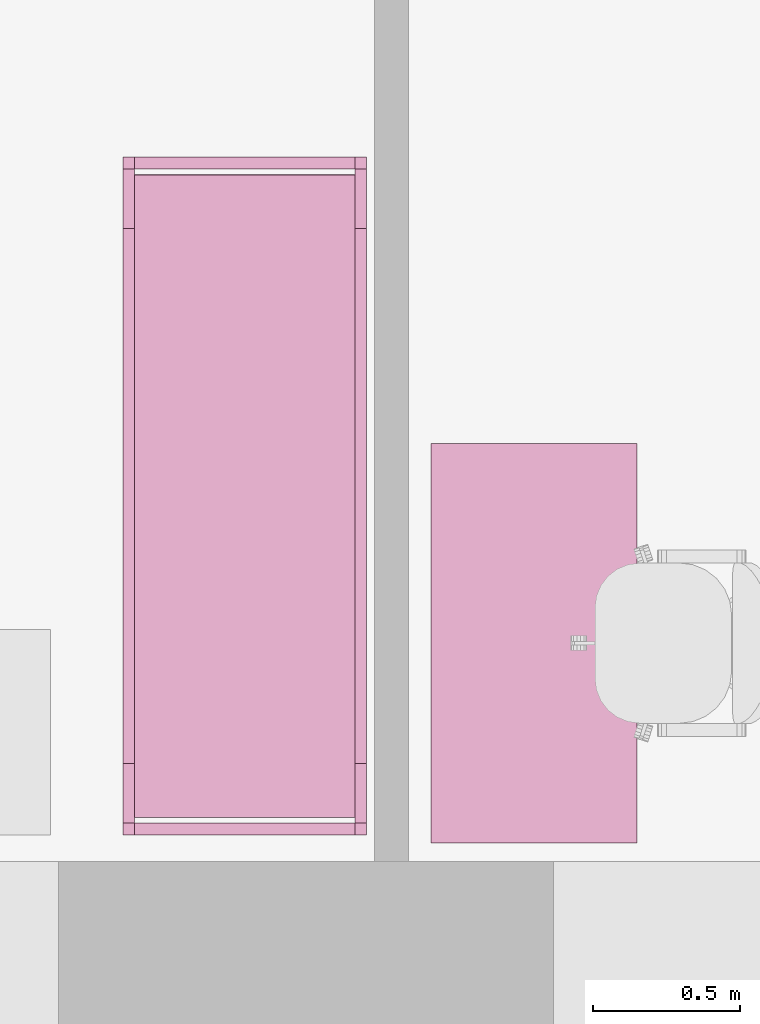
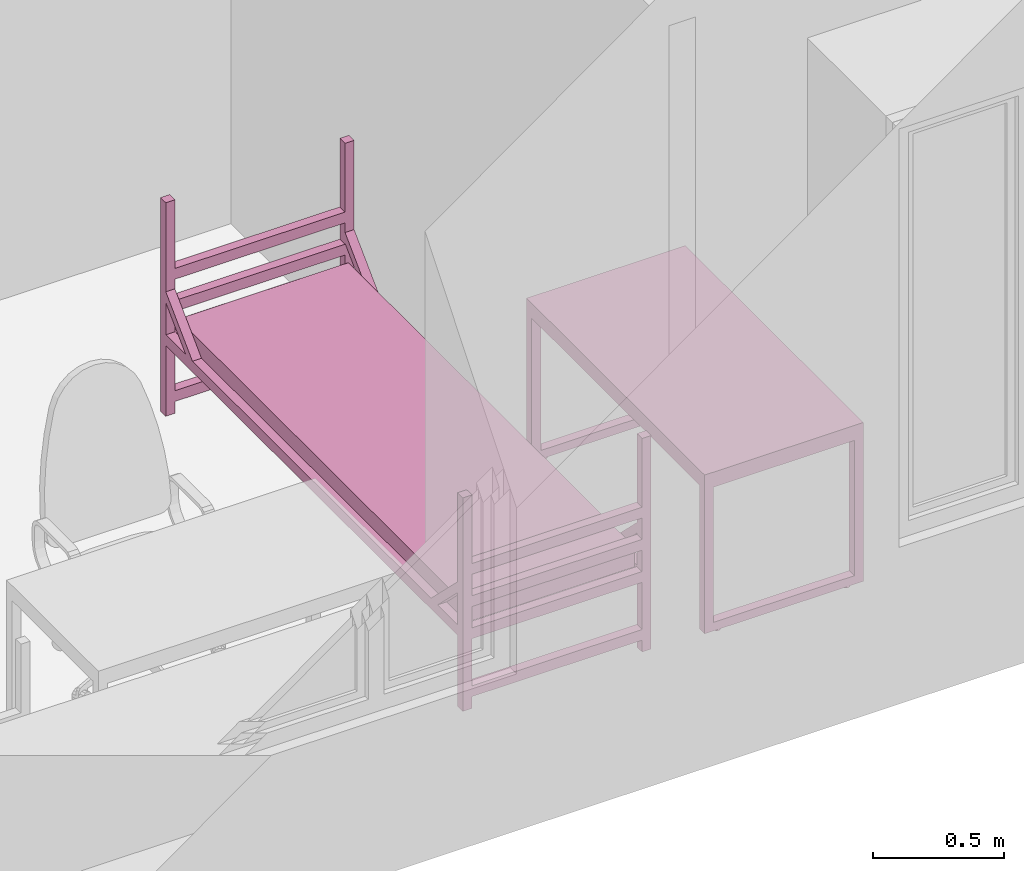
# One storey, part 36 of 48: 2 furnishings.
"""IFC2X3 building model written with IfcOpenShell, lengths in millimetres."""

from ifc_helpers import new_model, entity, si_unit, converted_unit, derived_unit, direction, frame, frame_2d, origin, place, context, subcontext, project, spatial, polyline, circle_curve, parameter, trimmed, segment, composite_curve, rectangle, outline, extrude, faceted_brep, source, transform, mapped, material, material_list, type_object, type_shapes, element, save


model = new_model("IFC2X3")

# Units and contexts
model_context = context("Model", 3, precision=0.01, world=origin(), true_north=direction((6.12303176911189e-17, 1.0)))
body_context = subcontext(model_context, "Body", "Model", "MODEL_VIEW")
ifc_project = project(units=[si_unit("LENGTHUNIT", "METRE", prefix="MILLI"), si_unit("AREAUNIT", "SQUARE_METRE"), si_unit("VOLUMEUNIT", "CUBIC_METRE"), converted_unit("PLANEANGLEUNIT", "DEGREE", entity("IfcRatioMeasure", 0.0174532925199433), si_unit("PLANEANGLEUNIT", "RADIAN"), dimensions=[0, 0, 0, 0, 0, 0, 0]), si_unit("MASSUNIT", "GRAM", prefix="KILO"), derived_unit("MASSDENSITYUNIT", [(si_unit("MASSUNIT", "GRAM", prefix="KILO"), 1), (si_unit("LENGTHUNIT", "METRE"), -3)]), si_unit("TIMEUNIT", "SECOND"), si_unit("FREQUENCYUNIT", "HERTZ"), si_unit("THERMODYNAMICTEMPERATUREUNIT", "DEGREE_CELSIUS"), derived_unit("THERMALTRANSMITTANCEUNIT", [(si_unit("MASSUNIT", "GRAM", prefix="KILO"), 1), (si_unit("THERMODYNAMICTEMPERATUREUNIT", "KELVIN"), -1), (si_unit("TIMEUNIT", "SECOND"), -3)]), derived_unit("VOLUMETRICFLOWRATEUNIT", [(si_unit("LENGTHUNIT", "METRE"), 3), (si_unit("TIMEUNIT", "SECOND"), -1)]), si_unit("ELECTRICCURRENTUNIT", "AMPERE"), si_unit("ELECTRICVOLTAGEUNIT", "VOLT"), si_unit("POWERUNIT", "WATT"), si_unit("FORCEUNIT", "NEWTON", prefix="KILO"), si_unit("ILLUMINANCEUNIT", "LUX"), si_unit("LUMINOUSFLUXUNIT", "LUMEN"), si_unit("LUMINOUSINTENSITYUNIT", "CANDELA"), derived_unit("USERDEFINED", [(si_unit("MASSUNIT", "GRAM", prefix="KILO"), -1), (si_unit("LENGTHUNIT", "METRE"), -2), (si_unit("TIMEUNIT", "SECOND"), 3), (si_unit("LUMINOUSFLUXUNIT", "LUMEN"), 1)]), derived_unit("LINEARVELOCITYUNIT", [(si_unit("LENGTHUNIT", "METRE"), 1), (si_unit("TIMEUNIT", "SECOND"), -1)]), si_unit("PRESSUREUNIT", "PASCAL"), derived_unit("USERDEFINED", [(si_unit("LENGTHUNIT", "METRE"), -2), (si_unit("MASSUNIT", "GRAM", prefix="KILO"), 1), (si_unit("TIMEUNIT", "SECOND"), -2)]), derived_unit("LINEARFORCEUNIT", [(si_unit("MASSUNIT", "GRAM", prefix="KILO"), 1), (si_unit("LENGTHUNIT", "METRE"), 1), (si_unit("TIMEUNIT", "SECOND"), -2), (si_unit("LENGTHUNIT", "METRE"), -1)]), derived_unit("PLANARFORCEUNIT", [(si_unit("MASSUNIT", "GRAM", prefix="KILO"), 1), (si_unit("LENGTHUNIT", "METRE"), 1), (si_unit("TIMEUNIT", "SECOND"), -2), (si_unit("LENGTHUNIT", "METRE"), -2)])], contexts=[model_context])

# Site, building, storey, space
site_placement = place(None, origin())
site = spatial("IfcSite", under=ifc_project, at=site_placement, Name="Default", CompositionType="ELEMENT")
building_placement = place(site_placement, origin())
building = spatial("IfcBuilding", under=site, at=building_placement, Name="SMA ARH", CompositionType="ELEMENT")
storey_placement = place(building_placement, frame((0.0, 0.0, 3300.0)))
storey = spatial("IfcBuildingStorey", under=building, at=storey_placement, Name="2 Korrus", CompositionType="ELEMENT", Elevation=3299.99999999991)
space_1_placement = place(storey_placement, origin())
space_1 = spatial("IfcSpace", under=storey, at=space_1_placement, Name="2-7", CompositionType="ELEMENT", InteriorOrExteriorSpace="INTERNAL")

# Furnishing
ifc_material_1 = material(Name="Madrats")
furniture_type_1 = type_object("IfcFurnitureType", Name="Kasarmu voodi ühekordne 2308x830:Kasarmu voodi ühekordne 2308x830", material=ifc_material_1)
shared_shape_1 = source(origin(), body_context, "Body", "SweptSolid", [
    extrude(rectangle(XDim=39.9999999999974, YDim=750.000000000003, at=frame_2d((-1.35003119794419e-13, -2.8421709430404e-14), x_axis=(1.0, 0.0))), frame((1.68638457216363, -1226.7969571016, 55.0), z_axis=(0.0, 0.0, 1.0), x_axis=(0.0, -1.0, 0.0)), (0.0, 0.0, 1.0), 49.9999999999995),
    extrude(rectangle(XDim=39.9999999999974, YDim=750.000000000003, at=frame_2d((-1.35003119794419e-13, -2.8421709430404e-14), x_axis=(1.0, 0.0))), frame((1.68638457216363, -1226.7969571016, 325.0), z_axis=(0.0, 0.0, 1.0), x_axis=(0.0, -1.0, 0.0)), (0.0, 0.0, 1.0), 49.9999999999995),
    extrude(rectangle(XDim=39.9999999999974, YDim=750.000000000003, at=frame_2d((-1.35003119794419e-13, -2.8421709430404e-14), x_axis=(1.0, 0.0))), frame((1.68638457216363, -1226.7969571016, 475.0), z_axis=(0.0, 0.0, 1.0), x_axis=(0.0, -1.0, 0.0)), (0.0, 0.0, 1.0), 49.9999999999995),
    extrude(rectangle(XDim=39.9999999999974, YDim=750.000000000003, at=frame_2d((-1.35003119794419e-13, -2.8421709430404e-14), x_axis=(1.0, 0.0))), frame((1.68638457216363, -1226.7969571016, 625.0), z_axis=(0.0, 0.0, 1.0), x_axis=(0.0, -1.0, 0.0)), (0.0, 0.0, 1.0), 50.0000000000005),
    extrude(rectangle(XDim=39.9999999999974, YDim=750.000000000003, at=frame_2d((1.35003119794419e-13, -2.8421709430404e-14), x_axis=(1.0, 0.0))), frame((1.68638457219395, 1041.2030428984, 55.0), z_axis=(0.0, 0.0, 1.0), x_axis=(0.0, -1.0, 0.0)), (0.0, 0.0, 1.0), 50.0000000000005),
    extrude(rectangle(XDim=39.9999999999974, YDim=750.000000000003, at=frame_2d((1.35003119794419e-13, -2.8421709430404e-14), x_axis=(1.0, 0.0))), frame((1.68638457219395, 1041.2030428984, 325.0), z_axis=(0.0, 0.0, 1.0), x_axis=(0.0, -1.0, 0.0)), (0.0, 0.0, 1.0), 50.0000000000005),
    extrude(rectangle(XDim=39.9999999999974, YDim=750.000000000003, at=frame_2d((1.35003119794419e-13, -2.8421709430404e-14), x_axis=(1.0, 0.0))), frame((1.68638457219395, 1041.2030428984, 475.0), z_axis=(0.0, 0.0, 1.0), x_axis=(0.0, -1.0, 0.0)), (0.0, 0.0, 1.0), 50.0000000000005),
    extrude(rectangle(XDim=39.9999999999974, YDim=750.000000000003, at=frame_2d((1.35003119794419e-13, -2.8421709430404e-14), x_axis=(1.0, 0.0))), frame((1.68638457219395, 1041.2030428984, 625.0), z_axis=(0.0, 0.0, 1.0), x_axis=(0.0, -1.0, 0.0)), (0.0, 0.0, 1.0), 49.9999999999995),
    extrude(outline(composite_curve([segment(trimmed(circle_curve(frame_2d((1085.0, -40.0), x_axis=(1.0, 0.0)), 10.0), [parameter(270.0)], [parameter(0.0)], True, "PARAMETER"), True, "CONTINUOUS"), segment(polyline([(1095.0, -40.0), (1095.0, 40.0)]), True, "CONTINUOUS"), segment(trimmed(circle_curve(frame_2d((1085.0, 40.0), x_axis=(1.0, 0.0)), 10.0), [parameter(0.0)], [parameter(90.0000000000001)], True, "PARAMETER"), True, "CONTINUOUS"), segment(polyline([(1085.0, 50.0), (-1085.0, 50.0)]), True, "CONTINUOUS"), segment(trimmed(circle_curve(frame_2d((-1085.0, 40.0), x_axis=(1.0, 0.0)), 10.0), [parameter(90.0000000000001)], [parameter(180.0)], True, "PARAMETER"), True, "CONTINUOUS"), segment(polyline([(-1095.0, 40.0), (-1095.0, -40.0)]), True, "CONTINUOUS"), segment(trimmed(circle_curve(frame_2d((-1085.0, -40.0), x_axis=(1.0, 0.0)), 10.0), [parameter(180.0)], [parameter(270.0)], True, "PARAMETER"), True, "CONTINUOUS"), segment(polyline([(-1085.0, -50.0), (1085.0, -50.0)]), True, "CONTINUOUS")], self_intersect=False)), frame((-373.313615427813, -92.7969571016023, 405.0), z_axis=(1.0, 0.0, 0.0), x_axis=(0.0, -1.0, 0.0)), (0.0, 0.0, 1.0), 750.000000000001),
    extrude(outline(polyline([(-1114.0, -100.0), (1114.0, -100.0), (1114.0, -50.0), (961.59199141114, -50.0), (1114.0, 100.0), (1114.0, 150.0), (910.789321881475, -50.0), (-910.789321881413, -50.0), (-1114.0, 150.0), (-1114.0, 100.0), (-961.591991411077, -50.0), (-1114.0, -50.0), (-1114.0, -100.0)])), frame((-413.313615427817, -92.7969571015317, 430.0), z_axis=(1.0, 0.0, 0.0), x_axis=(0.0, 1.0, 0.0)), (0.0, 0.0, 1.0), 39.9999999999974),
    extrude(outline(polyline([(-1114.0, -100.0), (1114.0, -100.0), (1114.0, -50.0), (961.591991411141, -50.0), (1114.0, 100.0), (1114.0, 150.0), (910.789321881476, -50.0), (-910.789321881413, -50.0), (-1114.0, 150.0), (-1114.0, 100.0), (-961.591991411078, -50.0), (-1114.0, -50.0), (-1114.0, -100.0)])), frame((376.686384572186, -92.796957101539, 430.0), z_axis=(1.0, 0.0, 0.0), x_axis=(0.0, 1.0, 0.0)), (0.0, 0.0, 1.0), 39.9999999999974),
    extrude(rectangle(XDim=39.9999999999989, YDim=39.9999999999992, at=frame_2d((-6.75015598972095e-14, 0.0), x_axis=(1.0, 0.0))), frame((396.686384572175, -1226.79695710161, 0.0), z_axis=(0.0, 0.0, 1.0), x_axis=(0.0, 1.0, 0.0)), (0.0, 0.0, 1.0), 995.0),
    extrude(rectangle(XDim=39.9999999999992, YDim=39.9999999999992, at=frame_2d((-1.35003119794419e-13, 0.0), x_axis=(1.0, 0.0))), frame((396.686384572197, 1041.20304289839, 0.0), z_axis=(0.0, 0.0, 1.0), x_axis=(0.0, 1.0, 0.0)), (0.0, 0.0, 1.0), 995.0),
    extrude(rectangle(XDim=40.0000000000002, YDim=39.9999999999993, at=frame_2d((-1.35003119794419e-13, 0.0), x_axis=(1.0, 0.0))), frame((-393.313615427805, 1041.2030428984, 0.0), z_axis=(0.0, 0.0, 1.0), x_axis=(0.0, 1.0, 0.0)), (0.0, 0.0, 1.0), 995.0),
    extrude(rectangle(XDim=39.9999999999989, YDim=39.9999999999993, at=frame_2d((-6.75015598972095e-14, 0.0), x_axis=(1.0, 0.0))), frame((-393.313615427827, -1226.7969571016, 0.0), z_axis=(0.0, 0.0, 1.0), x_axis=(0.0, 1.0, 0.0)), (0.0, 0.0, 1.0), 995.0),
])
type_shapes(furniture_type_1, [shared_shape_1])
furnishing_1_placement = place(space_1_placement, frame((26577.3136154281, 1336.79695710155, 0.0)))
element("IfcFurnishingElement", 1, at=furnishing_1_placement, inside=space_1, type_object=furniture_type_1, material=ifc_material_1, Name="Kasarmu voodi ühekordne 2308x830:Kasarmu voodi ühekordne 2308x830", ObjectType="Kasarmu voodi ühekordne 2308x830:Kasarmu voodi ühekordne 2308x830", context=body_context, shape_type="MappedRepresentation", body=[
    mapped(shared_shape_1, transform((0.0, 0.0, 0.0), scale=1.0)),
])

# Space
space_2_placement = place(storey_placement, origin())
space_2 = spatial("IfcSpace", under=storey, at=space_2_placement, Name="2-6", CompositionType="ELEMENT", InteriorOrExteriorSpace="INTERNAL")

# Furnishing
ifc_material_2 = material(Name="<Unnamed>")
ifc_material_list = material_list([ifc_material_2, ifc_material_2])
furniture_type_2 = type_object("IfcFurnitureType", Name="kirjutuslaud 1360x700mm:kirjutuslaud 1360x700mm", material=ifc_material_list)
shared_shape_2 = source(origin(), body_context, "Body", "Brep", [
    faceted_brep([(680.0, -350.0, 720.0), (680.0, 350.0, 720.0), (680.0, 350.0, 750.0), (680.0, -350.0, 750.0), (-680.0, -350.0, 720.0), (-680.0, -350.0, 750.0), (-680.0, 350.0, 750.0), (-680.0, 350.0, 720.0)], [[[0, 1, 2, 3]], [[4, 5, 6, 7]], [[1, 0, 4, 7]], [[2, 1, 7, 6]], [[3, 2, 6, 5]], [[0, 3, 5, 4]]]),
    faceted_brep([(-640.0, -310.0, 680.0), (-640.0, 310.0, 680.0), (-640.0, 310.0, 720.0), (-640.0, -310.0, 720.0), (-680.0, -350.0, 720.0), (-680.0, 350.0, 720.0), (-680.0, 350.0, 10.0), (-680.0, -350.0, 10.0), (-680.0, 310.0, 680.0), (-680.0, -310.0, 680.0), (-680.0, -310.0, 50.0), (-680.0, 310.0, 50.0), (-640.0, -350.0, 10.0), (-640.0, -350.0, 680.0), (640.0, -350.0, 680.0), (640.0, -350.0, 10.0), (680.0, -350.0, 10.0), (680.0, -350.0, 720.0), (-640.0, 350.0, 10.0), (680.0, 350.0, 720.0), (680.0, 350.0, 10.0), (640.0, 350.0, 10.0), (640.0, 350.0, 680.0), (-640.0, 350.0, 680.0), (640.0, 310.0, 720.0), (640.0, -310.0, 720.0), (-640.0, 310.0, 50.0), (-640.0, -310.0, 50.0), (640.0, -310.0, 680.0), (640.0, 310.0, 680.0), (680.0, 310.0, 680.0), (680.0, 310.0, 50.0), (680.0, -310.0, 50.0), (680.0, -310.0, 680.0), (640.0, -310.0, 50.0), (640.0, 310.0, 50.0)], [[[0, 1, 2, 3]], [[4, 5, 6, 7], [8, 9, 10, 11]], [[4, 7, 12, 13, 14, 15, 16, 17]], [[18, 12, 7, 6]], [[6, 5, 19, 20, 21, 22, 23, 18]], [[19, 5, 4, 17], [2, 24, 25, 3]], [[26, 1, 8, 11]], [[27, 26, 11, 10]], [[0, 27, 10, 9]], [[1, 0, 9, 8]], [[14, 13, 0, 28]], [[24, 2, 1, 29]], [[3, 25, 28, 0]], [[17, 16, 20, 19], [30, 31, 32, 33]], [[21, 15, 14, 28, 34, 35, 29, 22]], [[20, 16, 15, 21]], [[31, 30, 29, 35]], [[32, 31, 35, 34]], [[33, 32, 34, 28]], [[30, 33, 28, 29]], [[29, 28, 25, 24]], [[29, 1, 23, 22]], [[12, 18, 23, 1, 26, 27, 0, 13]]]),
    faceted_brep([(-663.729456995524, -270.466136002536, 0.0), (-659.847171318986, -269.955023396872, 0.0), (-655.964885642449, -270.466136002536, 0.0), (-652.347171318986, -271.964642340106, 0.0), (-649.240569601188, -274.348421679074, 0.0), (-646.85679026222, -277.455023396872, 0.0), (-645.35828392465, -281.072737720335, 0.0), (-644.847171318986, -284.955023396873, 0.0), (-645.35828392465, -288.83730907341, 0.0), (-646.85679026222, -292.455023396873, 0.0), (-649.240569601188, -295.561625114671, 0.0), (-652.347171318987, -297.945404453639, 0.0), (-655.964885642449, -299.443910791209, 0.0), (-659.847171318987, -299.955023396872, 0.0), (-663.729456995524, -299.443910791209, 0.0), (-667.347171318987, -297.945404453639, 0.0), (-670.453773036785, -295.561625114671, 0.0), (-672.837552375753, -292.455023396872, 0.0), (-674.336058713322, -288.83730907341, 0.0), (-674.847171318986, -284.955023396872, 0.0), (-674.336058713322, -281.072737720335, 0.0), (-672.837552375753, -277.455023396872, 0.0), (-670.453773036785, -274.348421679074, 0.0), (-667.347171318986, -271.964642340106, 0.0), (-655.964885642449, -299.443910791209, 10.0), (-652.347171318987, -297.945404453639, 10.0), (-649.240569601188, -295.561625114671, 10.0), (-646.85679026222, -292.455023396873, 10.0), (-645.35828392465, -288.83730907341, 10.0), (-644.847171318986, -284.955023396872, 10.0), (-645.35828392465, -281.072737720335, 10.0), (-646.85679026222, -277.455023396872, 10.0), (-649.240569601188, -274.348421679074, 10.0), (-652.347171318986, -271.964642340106, 10.0), (-655.964885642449, -270.466136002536, 10.0), (-659.847171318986, -269.955023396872, 10.0), (-663.729456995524, -270.466136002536, 10.0), (-667.347171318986, -271.964642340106, 10.0), (-670.453773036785, -274.348421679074, 10.0), (-672.837552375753, -277.455023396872, 10.0), (-674.336058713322, -281.072737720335, 10.0), (-674.847171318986, -284.955023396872, 10.0), (-674.336058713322, -288.83730907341, 10.0), (-672.837552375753, -292.455023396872, 10.0), (-670.453773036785, -295.561625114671, 10.0), (-667.347171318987, -297.945404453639, 10.0), (-663.729456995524, -299.443910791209, 10.0), (-659.847171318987, -299.955023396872, 10.0)], [[[0, 1, 2, 3, 4, 5, 6, 7, 8, 9, 10, 11, 12, 13, 14, 15, 16, 17, 18, 19, 20, 21, 22, 23]], [[24, 25, 26, 27, 28, 29, 30, 31, 32, 33, 34, 35, 36, 37, 38, 39, 40, 41, 42, 43, 44, 45, 46, 47]], [[18, 42, 41, 19]], [[17, 43, 42, 18]], [[45, 44, 16, 15]], [[17, 16, 44, 43]], [[46, 45, 15, 14]], [[47, 46, 14, 13]], [[12, 24, 47, 13]], [[11, 25, 24, 12]], [[27, 26, 10, 9]], [[11, 10, 26, 25]], [[28, 27, 9, 8]], [[29, 28, 8, 7]], [[6, 30, 29, 7]], [[5, 31, 30, 6]], [[33, 32, 4, 3]], [[5, 4, 32, 31]], [[34, 33, 3, 2]], [[35, 34, 2, 1]], [[0, 36, 35, 1]], [[23, 37, 36, 0]], [[39, 38, 22, 21]], [[23, 22, 38, 37]], [[40, 39, 21, 20]], [[41, 40, 20, 19]]]),
    faceted_brep([(-655.964885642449, 270.466136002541, 10.0), (-652.347171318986, 271.964642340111, 10.0), (-649.240569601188, 274.348421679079, 10.0), (-646.85679026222, 277.455023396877, 10.0), (-645.35828392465, 281.07273772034, 10.0), (-644.847171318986, 284.955023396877, 10.0), (-645.35828392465, 288.837309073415, 10.0), (-646.85679026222, 292.455023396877, 10.0), (-649.240569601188, 295.561625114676, 10.0), (-652.347171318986, 297.945404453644, 10.0), (-655.964885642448, 299.443910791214, 10.0), (-659.847171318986, 299.955023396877, 10.0), (-663.729456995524, 299.443910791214, 10.0), (-667.347171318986, 297.945404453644, 10.0), (-670.453773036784, 295.561625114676, 10.0), (-672.837552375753, 292.455023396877, 10.0), (-674.336058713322, 288.837309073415, 10.0), (-674.847171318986, 284.955023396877, 10.0), (-674.336058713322, 281.07273772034, 10.0), (-672.837552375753, 277.455023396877, 10.0), (-670.453773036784, 274.348421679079, 10.0), (-667.347171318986, 271.964642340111, 10.0), (-663.729456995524, 270.466136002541, 10.0), (-659.847171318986, 269.955023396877, 10.0), (-655.964885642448, 299.443910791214, 0.0), (-652.347171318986, 297.945404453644, 0.0), (-649.240569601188, 295.561625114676, 0.0), (-646.85679026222, 292.455023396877, 0.0), (-645.35828392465, 288.837309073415, 0.0), (-644.847171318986, 284.955023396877, 0.0), (-645.35828392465, 281.07273772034, 0.0), (-646.85679026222, 277.455023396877, 0.0), (-649.240569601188, 274.348421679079, 0.0), (-652.347171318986, 271.964642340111, 0.0), (-655.964885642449, 270.466136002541, 0.0), (-659.847171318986, 269.955023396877, 0.0), (-663.729456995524, 270.466136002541, 0.0), (-667.347171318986, 271.964642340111, 0.0), (-670.453773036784, 274.348421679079, 0.0), (-672.837552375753, 277.455023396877, 0.0), (-674.336058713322, 281.07273772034, 0.0), (-674.847171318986, 284.955023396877, 0.0), (-674.336058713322, 288.837309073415, 0.0), (-672.837552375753, 292.455023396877, 0.0), (-670.453773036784, 295.561625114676, 0.0), (-667.347171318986, 297.945404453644, 0.0), (-663.729456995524, 299.443910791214, 0.0), (-659.847171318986, 299.955023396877, 0.0)], [[[0, 1, 2, 3, 4, 5, 6, 7, 8, 9, 10, 11, 12, 13, 14, 15, 16, 17, 18, 19, 20, 21, 22, 23]], [[24, 25, 26, 27, 28, 29, 30, 31, 32, 33, 34, 35, 36, 37, 38, 39, 40, 41, 42, 43, 44, 45, 46, 47]], [[40, 18, 17, 41]], [[39, 19, 18, 40]], [[21, 20, 38, 37]], [[39, 38, 20, 19]], [[22, 21, 37, 36]], [[23, 22, 36, 35]], [[34, 0, 23, 35]], [[33, 1, 0, 34]], [[3, 2, 32, 31]], [[33, 32, 2, 1]], [[4, 3, 31, 30]], [[5, 4, 30, 29]], [[28, 6, 5, 29]], [[27, 7, 6, 28]], [[9, 8, 26, 25]], [[27, 26, 8, 7]], [[10, 9, 25, 24]], [[11, 10, 24, 47]], [[46, 12, 11, 47]], [[45, 13, 12, 46]], [[15, 14, 44, 43]], [[45, 44, 14, 13]], [[16, 15, 43, 42]], [[17, 16, 42, 41]]]),
    faceted_brep([(656.270543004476, -270.466136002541, 0.0), (660.152828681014, -269.955023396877, 0.0), (664.035114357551, -270.466136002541, 0.0), (667.652828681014, -271.96464234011, 0.0), (670.759430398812, -274.348421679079, 0.0), (673.14320973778, -277.455023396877, 0.0), (674.64171607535, -281.072737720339, 0.0), (675.152828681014, -284.955023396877, 0.0), (674.64171607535, -288.837309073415, 0.0), (673.14320973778, -292.455023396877, 0.0), (670.759430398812, -295.561625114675, 0.0), (667.652828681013, -297.945404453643, 0.0), (664.035114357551, -299.443910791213, 0.0), (660.152828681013, -299.955023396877, 0.0), (656.270543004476, -299.443910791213, 0.0), (652.652828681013, -297.945404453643, 0.0), (649.546226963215, -295.561625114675, 0.0), (647.162447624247, -292.455023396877, 0.0), (645.663941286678, -288.837309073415, 0.0), (645.152828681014, -284.955023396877, 0.0), (645.663941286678, -281.072737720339, 0.0), (647.162447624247, -277.455023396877, 0.0), (649.546226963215, -274.348421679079, 0.0), (652.652828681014, -271.96464234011, 0.0), (664.035114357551, -299.443910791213, 10.0), (667.652828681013, -297.945404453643, 10.0), (670.759430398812, -295.561625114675, 10.0), (673.14320973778, -292.455023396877, 10.0), (674.64171607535, -288.837309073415, 10.0), (675.152828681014, -284.955023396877, 10.0), (674.64171607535, -281.072737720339, 10.0), (673.14320973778, -277.455023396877, 10.0), (670.759430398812, -274.348421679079, 10.0), (667.652828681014, -271.96464234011, 10.0), (664.035114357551, -270.466136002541, 10.0), (660.152828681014, -269.955023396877, 10.0), (656.270543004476, -270.466136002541, 10.0), (652.652828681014, -271.96464234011, 10.0), (649.546226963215, -274.348421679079, 10.0), (647.162447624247, -277.455023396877, 10.0), (645.663941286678, -281.072737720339, 10.0), (645.152828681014, -284.955023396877, 10.0), (645.663941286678, -288.837309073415, 10.0), (647.162447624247, -292.455023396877, 10.0), (649.546226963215, -295.561625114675, 10.0), (652.652828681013, -297.945404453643, 10.0), (656.270543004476, -299.443910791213, 10.0), (660.152828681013, -299.955023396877, 10.0)], [[[0, 1, 2, 3, 4, 5, 6, 7, 8, 9, 10, 11, 12, 13, 14, 15, 16, 17, 18, 19, 20, 21, 22, 23]], [[24, 25, 26, 27, 28, 29, 30, 31, 32, 33, 34, 35, 36, 37, 38, 39, 40, 41, 42, 43, 44, 45, 46, 47]], [[18, 42, 41, 19]], [[17, 43, 42, 18]], [[45, 44, 16, 15]], [[17, 16, 44, 43]], [[46, 45, 15, 14]], [[47, 46, 14, 13]], [[12, 24, 47, 13]], [[11, 25, 24, 12]], [[27, 26, 10, 9]], [[11, 10, 26, 25]], [[28, 27, 9, 8]], [[29, 28, 8, 7]], [[6, 30, 29, 7]], [[5, 31, 30, 6]], [[33, 32, 4, 3]], [[5, 4, 32, 31]], [[34, 33, 3, 2]], [[35, 34, 2, 1]], [[0, 36, 35, 1]], [[23, 37, 36, 0]], [[39, 38, 22, 21]], [[23, 22, 38, 37]], [[40, 39, 21, 20]], [[41, 40, 20, 19]]]),
    faceted_brep([(664.035114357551, 270.466136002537, 10.0), (667.652828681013, 271.964642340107, 10.0), (670.759430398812, 274.348421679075, 10.0), (673.14320973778, 277.455023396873, 10.0), (674.64171607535, 281.072737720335, 10.0), (675.152828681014, 284.955023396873, 10.0), (674.64171607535, 288.837309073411, 10.0), (673.14320973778, 292.455023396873, 10.0), (670.759430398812, 295.561625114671, 10.0), (667.652828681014, 297.94540445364, 10.0), (664.035114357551, 299.443910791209, 10.0), (660.152828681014, 299.955023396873, 10.0), (656.270543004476, 299.443910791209, 10.0), (652.652828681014, 297.94540445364, 10.0), (649.546226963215, 295.561625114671, 10.0), (647.162447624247, 292.455023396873, 10.0), (645.663941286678, 288.837309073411, 10.0), (645.152828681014, 284.955023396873, 10.0), (645.663941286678, 281.072737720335, 10.0), (647.162447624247, 277.455023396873, 10.0), (649.546226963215, 274.348421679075, 10.0), (652.652828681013, 271.964642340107, 10.0), (656.270543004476, 270.466136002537, 10.0), (660.152828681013, 269.955023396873, 10.0), (664.035114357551, 299.443910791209, 0.0), (667.652828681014, 297.94540445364, 0.0), (670.759430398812, 295.561625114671, 0.0), (673.14320973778, 292.455023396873, 0.0), (674.64171607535, 288.837309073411, 0.0), (675.152828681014, 284.955023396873, 0.0), (674.64171607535, 281.072737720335, 0.0), (673.14320973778, 277.455023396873, 0.0), (670.759430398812, 274.348421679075, 0.0), (667.652828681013, 271.964642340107, 0.0), (664.035114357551, 270.466136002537, 0.0), (660.152828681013, 269.955023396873, 0.0), (656.270543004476, 270.466136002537, 0.0), (652.652828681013, 271.964642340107, 0.0), (649.546226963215, 274.348421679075, 0.0), (647.162447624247, 277.455023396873, 0.0), (645.663941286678, 281.072737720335, 0.0), (645.152828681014, 284.955023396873, 0.0), (645.663941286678, 288.837309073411, 0.0), (647.162447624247, 292.455023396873, 0.0), (649.546226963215, 295.561625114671, 0.0), (652.652828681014, 297.94540445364, 0.0), (656.270543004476, 299.443910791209, 0.0), (660.152828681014, 299.955023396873, 0.0)], [[[0, 1, 2, 3, 4, 5, 6, 7, 8, 9, 10, 11, 12, 13, 14, 15, 16, 17, 18, 19, 20, 21, 22, 23]], [[24, 25, 26, 27, 28, 29, 30, 31, 32, 33, 34, 35, 36, 37, 38, 39, 40, 41, 42, 43, 44, 45, 46, 47]], [[40, 18, 17, 41]], [[39, 19, 18, 40]], [[21, 20, 38, 37]], [[39, 38, 20, 19]], [[22, 21, 37, 36]], [[23, 22, 36, 35]], [[34, 0, 23, 35]], [[33, 1, 0, 34]], [[3, 2, 32, 31]], [[33, 32, 2, 1]], [[4, 3, 31, 30]], [[5, 4, 30, 29]], [[28, 6, 5, 29]], [[27, 7, 6, 28]], [[9, 8, 26, 25]], [[27, 26, 8, 7]], [[10, 9, 25, 24]], [[11, 10, 24, 47]], [[46, 12, 11, 47]], [[45, 13, 12, 46]], [[15, 14, 44, 43]], [[45, 44, 14, 13]], [[16, 15, 43, 42]], [[17, 16, 42, 41]]]),
])
type_shapes(furniture_type_2, [shared_shape_2])
furnishing_2_placement = place(space_2_placement, frame((27564.0449999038, 743.180198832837, 0.0), z_axis=(0.0, 0.0, 1.0), x_axis=(0.0, -1.0, 0.0)))
element("IfcFurnishingElement", 2, at=furnishing_2_placement, inside=space_2, type_object=furniture_type_2, Name="kirjutuslaud 1360x700mm:kirjutuslaud 1360x700mm", ObjectType="kirjutuslaud 1360x700mm:kirjutuslaud 1360x700mm", context=body_context, shape_type="MappedRepresentation", body=[
    mapped(shared_shape_2, transform((0.0, 0.0, 0.0), scale=1.0)),
])

save(model, "model.ifc")
